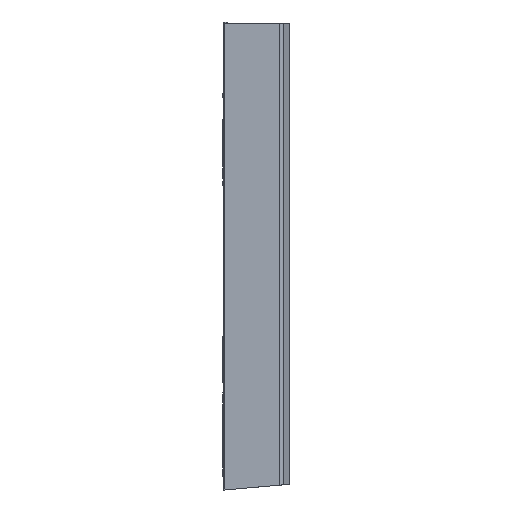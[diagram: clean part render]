
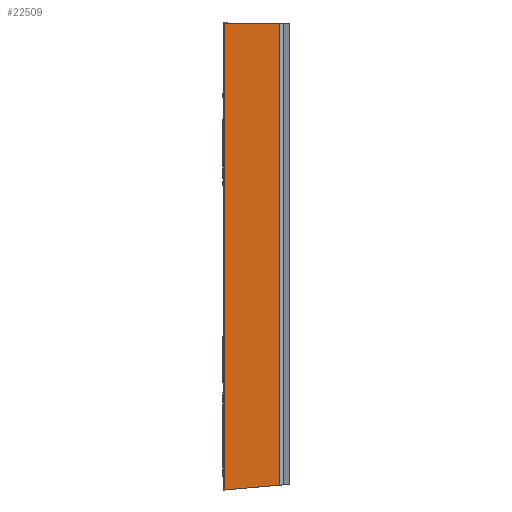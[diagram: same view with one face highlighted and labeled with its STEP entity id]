
A CAD part, left-side view. The second image highlights one B-rep face of the part: STEP entity #22509.
In plain terms, the highlighted planar face has unit normal (-1, 0, 0).
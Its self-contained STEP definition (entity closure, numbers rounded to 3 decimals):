
#600 = VERTEX_POINT ( 'NONE', #17550 ) ;
#911 = DIRECTION ( 'NONE',  ( 0., 0.996, -0.087 ) ) ;
#1586 = LINE ( 'NONE', #22834, #2922 ) ;
#1686 = VECTOR ( 'NONE', #911, 1000. ) ;
#2922 = VECTOR ( 'NONE', #18482, 1000. ) ;
#4080 = DIRECTION ( 'NONE',  ( -1., 0., 0. ) ) ;
#4405 = CARTESIAN_POINT ( 'NONE',  ( -242.5, 31.62, 0. ) ) ;
#5936 = VECTOR ( 'NONE', #13488, 1000. ) ;
#6202 = EDGE_CURVE ( 'NONE', #24469, #24488, #1586, .T. ) ;
#7731 = CARTESIAN_POINT ( 'NONE',  ( -242.5, 0., -1520.001 ) ) ;
#8741 = EDGE_CURVE ( 'NONE', #14030, #24469, #14275, .T. ) ;
#10330 = CARTESIAN_POINT ( 'NONE',  ( -242.5, 215., -1538.811 ) ) ;
#10933 = LINE ( 'NONE', #15680, #5936 ) ;
#11388 = ORIENTED_EDGE ( 'NONE', *, *, #8741, .F. ) ;
#11422 = EDGE_CURVE ( 'NONE', #600, #14030, #19591, .T. ) ;
#11425 = ORIENTED_EDGE ( 'NONE', *, *, #6202, .F. ) ;
#11762 = VECTOR ( 'NONE', #16326, 1000. ) ;
#12666 = DIRECTION ( 'NONE',  ( 0., -1., 0. ) ) ;
#13488 = DIRECTION ( 'NONE',  ( 0., 0., 1. ) ) ;
#14030 = VERTEX_POINT ( 'NONE', #20082 ) ;
#14196 = EDGE_LOOP ( 'NONE', ( #24893, #19190, #11425, #11388 ) ) ;
#14275 = LINE ( 'NONE', #10330, #11762 ) ;
#15680 = CARTESIAN_POINT ( 'NONE',  ( -242.5, 31.62, -1538.811 ) ) ;
#16326 = DIRECTION ( 'NONE',  ( 0., 0., 1. ) ) ;
#16917 = AXIS2_PLACEMENT_3D ( 'NONE', #20851, #4080, #12666 ) ;
#17550 = CARTESIAN_POINT ( 'NONE',  ( -242.5, 31.62, -1522.768 ) ) ;
#18482 = DIRECTION ( 'NONE',  ( 0., -1., 0. ) ) ;
#19190 = ORIENTED_EDGE ( 'NONE', *, *, #21016, .T. ) ;
#19393 = CARTESIAN_POINT ( 'NONE',  ( -242.5, 215., 0. ) ) ;
#19591 = LINE ( 'NONE', #7731, #1686 ) ;
#20082 = CARTESIAN_POINT ( 'NONE',  ( -242.5, 215., -1538.811 ) ) ;
#20851 = CARTESIAN_POINT ( 'NONE',  ( -242.5, 215., -1538.811 ) ) ;
#21016 = EDGE_CURVE ( 'NONE', #600, #24488, #10933, .T. ) ;
#21114 = FACE_OUTER_BOUND ( 'NONE', #14196, .T. ) ;
#22509 = ADVANCED_FACE ( 'NONE', ( #21114 ), #23152, .T. ) ;
#22834 = CARTESIAN_POINT ( 'NONE',  ( -242.5, 215., 0. ) ) ;
#23152 = PLANE ( 'NONE',  #16917 ) ;
#24469 = VERTEX_POINT ( 'NONE', #19393 ) ;
#24488 = VERTEX_POINT ( 'NONE', #4405 ) ;
#24893 = ORIENTED_EDGE ( 'NONE', *, *, #11422, .F. ) ;
